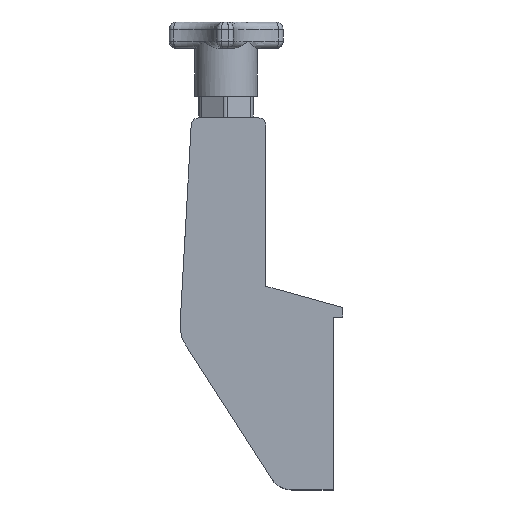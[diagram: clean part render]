
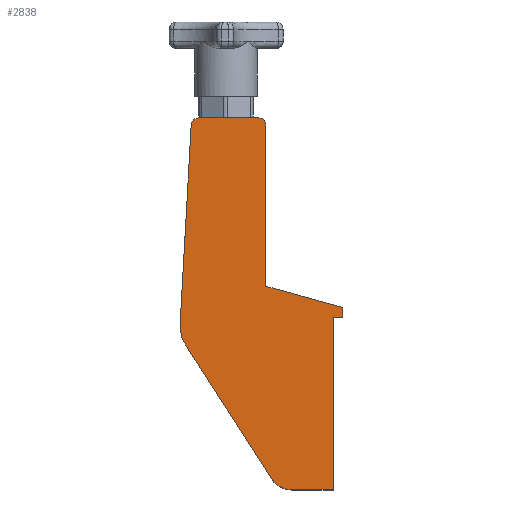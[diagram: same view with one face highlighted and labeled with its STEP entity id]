
A CAD part, top view. The second image highlights one B-rep face of the part: STEP entity #2838.
In plain terms, the highlighted planar face has unit normal (0, 0, 1).
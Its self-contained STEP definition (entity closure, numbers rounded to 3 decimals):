
#22 = ORIENTED_EDGE ( 'NONE', *, *, #753, .T. ) ;
#28 = VERTEX_POINT ( 'NONE', #2008 ) ;
#105 = AXIS2_PLACEMENT_3D ( 'NONE', #1299, #2254, #3171 ) ;
#116 = CARTESIAN_POINT ( 'NONE',  ( -20.893, -71.895, 20. ) ) ;
#167 = CARTESIAN_POINT ( 'NONE',  ( -12.472, -76.502, 20. ) ) ;
#179 = CARTESIAN_POINT ( 'NONE',  ( -58.953, -7.215, 20. ) ) ;
#212 = CARTESIAN_POINT ( 'NONE',  ( -43.976, -8.047, 20. ) ) ;
#245 = DIRECTION ( 'NONE',  ( -0.964, 0.267, 0. ) ) ;
#286 = DIRECTION ( 'NONE',  ( 0., 1., 0. ) ) ;
#304 = EDGE_CURVE ( 'NONE', #4709, #722, #5371, .T. ) ;
#346 = VECTOR ( 'NONE', #4746, 1000. ) ;
#381 = AXIS2_PLACEMENT_3D ( 'NONE', #2818, #521, #5531 ) ;
#412 = DIRECTION ( 'NONE',  ( 0., 0., 1. ) ) ;
#521 = DIRECTION ( 'NONE',  ( 0., 0., 1. ) ) ;
#553 = DIRECTION ( 'NONE',  ( 0., 0., 1. ) ) ;
#722 = VERTEX_POINT ( 'NONE', #3658 ) ;
#734 = VECTOR ( 'NONE', #2428, 1000. ) ;
#747 = CARTESIAN_POINT ( 'NONE',  ( -20.893, -71.895, 20. ) ) ;
#753 = EDGE_CURVE ( 'NONE', #2525, #2584, #4914, .T. ) ;
#811 = DIRECTION ( 'NONE',  ( 1., 0., 0. ) ) ;
#940 = DIRECTION ( 'NONE',  ( 1., 0., 0. ) ) ;
#1003 = VECTOR ( 'NONE', #1013, 1000. ) ;
#1013 = DIRECTION ( 'NONE',  ( 0.539, -0.842, 0. ) ) ;
#1044 = CARTESIAN_POINT ( 'NONE',  ( 8.81, -0.502, 20. ) ) ;
#1064 = CARTESIAN_POINT ( 'NONE',  ( 8.81, -0.502, 20. ) ) ;
#1087 = LINE ( 'NONE', #5169, #734 ) ;
#1263 = PLANE ( 'NONE',  #2018 ) ;
#1282 = LINE ( 'NONE', #2587, #4049 ) ;
#1299 = CARTESIAN_POINT ( 'NONE',  ( -12.472, -66.502, 20. ) ) ;
#1309 = CARTESIAN_POINT ( 'NONE',  ( 4.81, -76.502, 20. ) ) ;
#1335 = EDGE_CURVE ( 'NONE', #3545, #2402, #1087, .T. ) ;
#1449 = LINE ( 'NONE', #4512, #2718 ) ;
#1451 = CARTESIAN_POINT ( 'NONE',  ( -51.353, 78.498, 20. ) ) ;
#1497 = DIRECTION ( 'NONE',  ( 0., 1., 0. ) ) ;
#1547 = VECTOR ( 'NONE', #286, 1000. ) ;
#1551 = VECTOR ( 'NONE', #1497, 1000. ) ;
#1641 = LINE ( 'NONE', #179, #346 ) ;
#1653 = CIRCLE ( 'NONE', #2980, 15. ) ;
#1661 = VECTOR ( 'NONE', #3146, 1000. ) ;
#1712 = VERTEX_POINT ( 'NONE', #2684 ) ;
#1732 = CARTESIAN_POINT ( 'NONE',  ( -12.472, -66.502, 20. ) ) ;
#1740 = EDGE_CURVE ( 'NONE', #5706, #3545, #3698, .T. ) ;
#1774 = ORIENTED_EDGE ( 'NONE', *, *, #2635, .T. ) ;
#1784 = ORIENTED_EDGE ( 'NONE', *, *, #5891, .T. ) ;
#1794 = CARTESIAN_POINT ( 'NONE',  ( -43.976, -8.047, 20. ) ) ;
#1950 = DIRECTION ( 'NONE',  ( 0., 0., 1. ) ) ;
#2008 = CARTESIAN_POINT ( 'NONE',  ( -26.19, 78.498, 20. ) ) ;
#2018 = AXIS2_PLACEMENT_3D ( 'NONE', #1732, #4886, #4446 ) ;
#2097 = CARTESIAN_POINT ( 'NONE',  ( -23.19, 75.498, 20. ) ) ;
#2149 = CARTESIAN_POINT ( 'NONE',  ( -23.19, 8.373, 20. ) ) ;
#2254 = DIRECTION ( 'NONE',  ( 0., 0., 1. ) ) ;
#2297 = ORIENTED_EDGE ( 'NONE', *, *, #4764, .T. ) ;
#2402 = VERTEX_POINT ( 'NONE', #3445 ) ;
#2423 = LINE ( 'NONE', #2586, #4915 ) ;
#2428 = DIRECTION ( 'NONE',  ( 1., 0., 0. ) ) ;
#2525 = VERTEX_POINT ( 'NONE', #1451 ) ;
#2528 = ORIENTED_EDGE ( 'NONE', *, *, #304, .T. ) ;
#2584 = VERTEX_POINT ( 'NONE', #3835 ) ;
#2586 = CARTESIAN_POINT ( 'NONE',  ( 4.81, -76.502, 20. ) ) ;
#2587 = CARTESIAN_POINT ( 'NONE',  ( -23.19, 8.373, 20. ) ) ;
#2635 = EDGE_CURVE ( 'NONE', #2584, #1712, #1641, .T. ) ;
#2684 = CARTESIAN_POINT ( 'NONE',  ( -58.953, -7.215, 20. ) ) ;
#2698 = VERTEX_POINT ( 'NONE', #3456 ) ;
#2708 = VERTEX_POINT ( 'NONE', #4787 ) ;
#2718 = VECTOR ( 'NONE', #5404, 1000. ) ;
#2724 = CARTESIAN_POINT ( 'NONE',  ( 4.81, -4.502, 20. ) ) ;
#2755 = ORIENTED_EDGE ( 'NONE', *, *, #2961, .T. ) ;
#2818 = CARTESIAN_POINT ( 'NONE',  ( -51.353, 75.498, 20. ) ) ;
#2838 = ADVANCED_FACE ( 'NONE', ( #2982 ), #1263, .T. ) ;
#2907 = EDGE_CURVE ( 'NONE', #4939, #3131, #4111, .T. ) ;
#2915 = LINE ( 'NONE', #116, #1003 ) ;
#2961 = EDGE_CURVE ( 'NONE', #722, #28, #3471, .T. ) ;
#2980 = AXIS2_PLACEMENT_3D ( 'NONE', #212, #1950, #4295 ) ;
#2982 = FACE_OUTER_BOUND ( 'NONE', #4119, .T. ) ;
#3116 = ORIENTED_EDGE ( 'NONE', *, *, #4509, .T. ) ;
#3131 = VERTEX_POINT ( 'NONE', #167 ) ;
#3146 = DIRECTION ( 'NONE',  ( 0., 1., 0. ) ) ;
#3171 = DIRECTION ( 'NONE',  ( 1., 0., 0. ) ) ;
#3212 = CARTESIAN_POINT ( 'NONE',  ( -26.19, 75.498, 20. ) ) ;
#3312 = CARTESIAN_POINT ( 'NONE',  ( 4.81, -4.502, 20. ) ) ;
#3336 = CIRCLE ( 'NONE', #4220, 15. ) ;
#3445 = CARTESIAN_POINT ( 'NONE',  ( 8.81, -4.502, 20. ) ) ;
#3456 = CARTESIAN_POINT ( 'NONE',  ( -56.607, -16.138, 20. ) ) ;
#3471 = CIRCLE ( 'NONE', #3767, 3. ) ;
#3540 = VERTEX_POINT ( 'NONE', #1044 ) ;
#3545 = VERTEX_POINT ( 'NONE', #3312 ) ;
#3566 = EDGE_CURVE ( 'NONE', #2402, #3540, #5872, .T. ) ;
#3658 = CARTESIAN_POINT ( 'NONE',  ( -23.19, 75.498, 20. ) ) ;
#3698 = LINE ( 'NONE', #2724, #1661 ) ;
#3723 = DIRECTION ( 'NONE',  ( 1., 0., 0. ) ) ;
#3767 = AXIS2_PLACEMENT_3D ( 'NONE', #3212, #553, #3723 ) ;
#3835 = CARTESIAN_POINT ( 'NONE',  ( -54.348, 75.665, 20. ) ) ;
#4006 = ORIENTED_EDGE ( 'NONE', *, *, #5711, .T. ) ;
#4023 = EDGE_CURVE ( 'NONE', #1712, #2708, #3336, .T. ) ;
#4049 = VECTOR ( 'NONE', #245, 1000. ) ;
#4111 = CIRCLE ( 'NONE', #105, 10. ) ;
#4119 = EDGE_LOOP ( 'NONE', ( #5295, #4899, #4882, #3116, #2528, #2755, #1784, #22, #1774, #5814, #5804, #2297, #4641, #4006 ) ) ;
#4220 = AXIS2_PLACEMENT_3D ( 'NONE', #1794, #412, #940 ) ;
#4295 = DIRECTION ( 'NONE',  ( 1., 0., 0. ) ) ;
#4397 = EDGE_CURVE ( 'NONE', #2708, #2698, #1653, .T. ) ;
#4446 = DIRECTION ( 'NONE',  ( 1., 0., 0. ) ) ;
#4509 = EDGE_CURVE ( 'NONE', #3540, #4709, #1282, .T. ) ;
#4512 = CARTESIAN_POINT ( 'NONE',  ( -51.353, 78.498, 20. ) ) ;
#4641 = ORIENTED_EDGE ( 'NONE', *, *, #2907, .T. ) ;
#4709 = VERTEX_POINT ( 'NONE', #2149 ) ;
#4746 = DIRECTION ( 'NONE',  ( -0.055, -0.998, 0. ) ) ;
#4764 = EDGE_CURVE ( 'NONE', #2698, #4939, #2915, .T. ) ;
#4787 = CARTESIAN_POINT ( 'NONE',  ( -58.976, -8.047, 20. ) ) ;
#4882 = ORIENTED_EDGE ( 'NONE', *, *, #3566, .T. ) ;
#4886 = DIRECTION ( 'NONE',  ( 0., 0., 1. ) ) ;
#4899 = ORIENTED_EDGE ( 'NONE', *, *, #1335, .T. ) ;
#4914 = CIRCLE ( 'NONE', #381, 3. ) ;
#4915 = VECTOR ( 'NONE', #811, 1000. ) ;
#4939 = VERTEX_POINT ( 'NONE', #747 ) ;
#5169 = CARTESIAN_POINT ( 'NONE',  ( 8.81, -4.502, 20. ) ) ;
#5295 = ORIENTED_EDGE ( 'NONE', *, *, #1740, .T. ) ;
#5371 = LINE ( 'NONE', #2097, #1547 ) ;
#5404 = DIRECTION ( 'NONE',  ( -1., 0., 0. ) ) ;
#5531 = DIRECTION ( 'NONE',  ( 1., 0., 0. ) ) ;
#5706 = VERTEX_POINT ( 'NONE', #1309 ) ;
#5711 = EDGE_CURVE ( 'NONE', #3131, #5706, #2423, .T. ) ;
#5804 = ORIENTED_EDGE ( 'NONE', *, *, #4397, .T. ) ;
#5814 = ORIENTED_EDGE ( 'NONE', *, *, #4023, .T. ) ;
#5872 = LINE ( 'NONE', #1064, #1551 ) ;
#5891 = EDGE_CURVE ( 'NONE', #28, #2525, #1449, .T. ) ;
